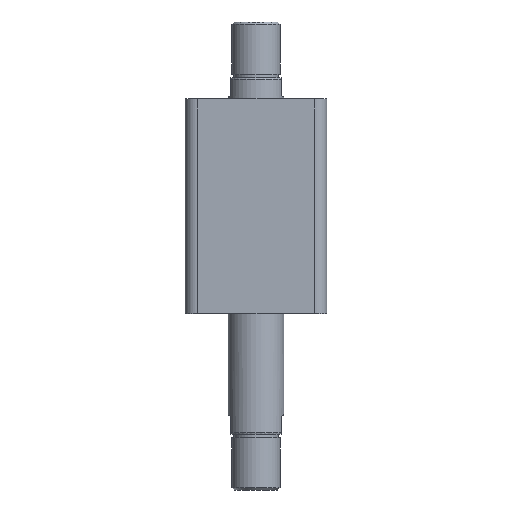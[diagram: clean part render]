
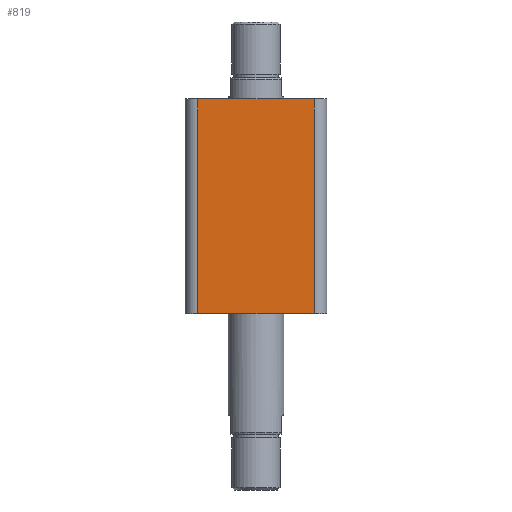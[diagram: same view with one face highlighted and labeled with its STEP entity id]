
A CAD part, front view. The second image highlights one B-rep face of the part: STEP entity #819.
In plain terms, the highlighted planar face has unit normal (0, -1, 0).
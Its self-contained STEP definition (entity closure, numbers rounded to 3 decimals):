
#356 = EDGE_CURVE ( 'NONE', #3132, #3139, #1704, .T. ) ;
#357 = EDGE_CURVE ( 'NONE', #3132, #3131, #1705, .T. ) ;
#358 = EDGE_CURVE ( 'NONE', #3134, #3131, #1708, .T. ) ;
#359 = EDGE_CURVE ( 'NONE', #3139, #3134, #1710, .T. ) ;
#680 = AXIS2_PLACEMENT_3D ( 'NONE', #2422, #2426, #2427 ) ;
#819 = ADVANCED_FACE ( 'NONE', ( #1993 ), #2424, .F. ) ;
#1029 = CARTESIAN_POINT ( 'NONE',  ( 47., -57., 173. ) ) ;
#1030 = CARTESIAN_POINT ( 'NONE',  ( -47., -57., 173. ) ) ;
#1032 = CARTESIAN_POINT ( 'NONE',  ( 47., -57., 0. ) ) ;
#1037 = CARTESIAN_POINT ( 'NONE',  ( -47., -57., 0. ) ) ;
#1232 = DIRECTION ( 'NONE',  ( 0., 0., -1. ) ) ;
#1249 = CARTESIAN_POINT ( 'NONE',  ( -57., -57., 173. ) ) ;
#1250 = CARTESIAN_POINT ( 'NONE',  ( -47., -57., 173. ) ) ;
#1254 = DIRECTION ( 'NONE',  ( 1., 0., 0. ) ) ;
#1255 = CARTESIAN_POINT ( 'NONE',  ( 47., -57., 173. ) ) ;
#1256 = DIRECTION ( 'NONE',  ( 0., 0., 1. ) ) ;
#1257 = CARTESIAN_POINT ( 'NONE',  ( -57., -57., 0. ) ) ;
#1258 = DIRECTION ( 'NONE',  ( 1., 0., 0. ) ) ;
#1704 = LINE ( 'NONE', #1250, #1707 ) ;
#1705 = LINE ( 'NONE', #1249, #1709 ) ;
#1707 = VECTOR ( 'NONE', #1232, 1000. ) ;
#1708 = LINE ( 'NONE', #1255, #1711 ) ;
#1709 = VECTOR ( 'NONE', #1254, 1000. ) ;
#1710 = LINE ( 'NONE', #1257, #1713 ) ;
#1711 = VECTOR ( 'NONE', #1256, 1000. ) ;
#1713 = VECTOR ( 'NONE', #1258, 1000. ) ;
#1993 = FACE_OUTER_BOUND ( 'NONE', #2919, .T. ) ;
#2422 = CARTESIAN_POINT ( 'NONE',  ( -57., -57., 173. ) ) ;
#2424 = PLANE ( 'NONE',  #680 ) ;
#2426 = DIRECTION ( 'NONE',  ( 0., 1., 0. ) ) ;
#2427 = DIRECTION ( 'NONE',  ( 0., 0., 1. ) ) ;
#2791 = ORIENTED_EDGE ( 'NONE', *, *, #359, .T. ) ;
#2919 = EDGE_LOOP ( 'NONE', ( #2791, #3088, #3087, #3086 ) ) ;
#3086 = ORIENTED_EDGE ( 'NONE', *, *, #356, .T. ) ;
#3087 = ORIENTED_EDGE ( 'NONE', *, *, #357, .F. ) ;
#3088 = ORIENTED_EDGE ( 'NONE', *, *, #358, .T. ) ;
#3131 = VERTEX_POINT ( 'NONE', #1029 ) ;
#3132 = VERTEX_POINT ( 'NONE', #1030 ) ;
#3134 = VERTEX_POINT ( 'NONE', #1032 ) ;
#3139 = VERTEX_POINT ( 'NONE', #1037 ) ;
